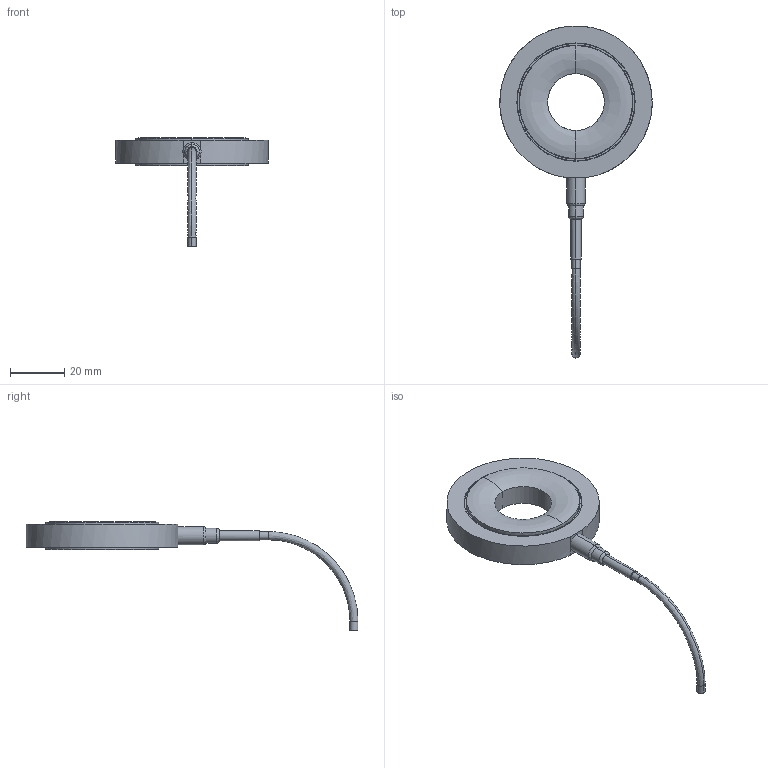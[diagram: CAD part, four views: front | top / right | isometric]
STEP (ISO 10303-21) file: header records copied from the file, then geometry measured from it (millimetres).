
FILE_DESCRIPTION (( 'STEP AP214' ), '1' );
FILE_NAME ('SM71-M20-300kN.STEP', '2022-02-15T10:16:19', ( '' ), ( '' ), 'SwSTEP 2.0', 'SolidWorks 2019', '' );
FILE_SCHEMA (( 'AUTOMOTIVE_DESIGN' ));
Length unit declared in the file: millimetre
Products named in the file (2): SM71-M20-300kN
Bounding box: 56.27 x 122.56 x 40.25 mm (x, y, z)
Volume: 20280.3 mm3; surface area: 7826 mm2
Topology: 1 solids, 1 shells, 49 faces, 100 edges, 56 vertices
Faces by surface type: bspline 39, plane 10
Entity records: 3545 total; most frequent: CARTESIAN_POINT 2742, ORIENTED_EDGE 200, EDGE_CURVE 100, B_SPLINE_CURVE_WITH_KNOTS 72, VERTEX_POINT 56, EDGE_LOOP 54, DIRECTION 52, FACE_OUTER_BOUND 49
